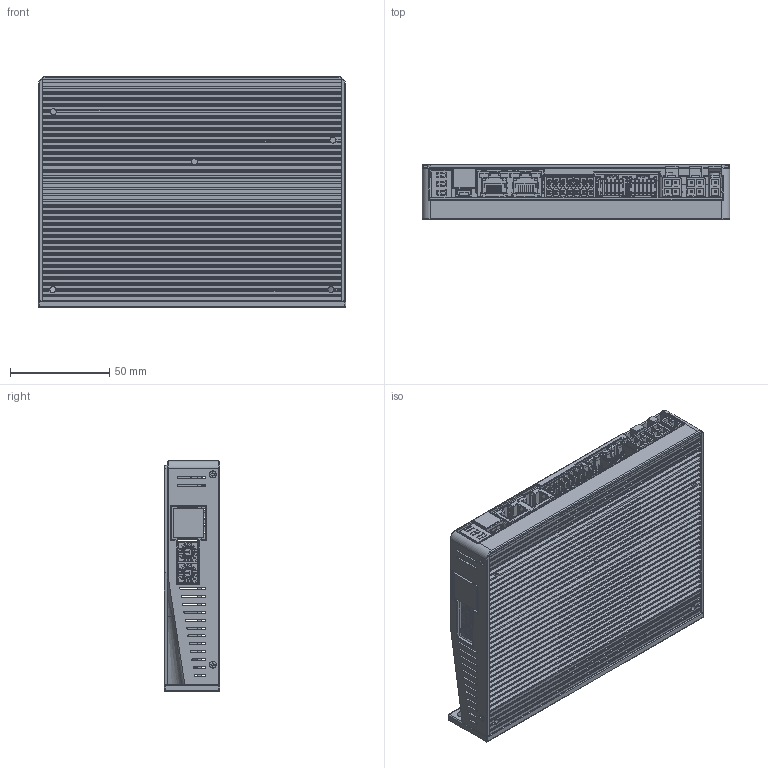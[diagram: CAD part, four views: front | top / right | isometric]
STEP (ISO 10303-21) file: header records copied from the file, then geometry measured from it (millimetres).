
FILE_DESCRIPTION((''),'2;1');
FILE_NAME('222_ASM','2021-08-10T',('sunjun'),(''),'PRO/ENGINEER BY PARAMETRIC TECHNOLOGY CORPORATION, 2008090','PRO/ENGINEER BY PARAMETRIC TECHNOLOGY CORPORATION, 2008090','');
FILE_SCHEMA(('CONFIG_CONTROL_DESIGN'));
Length unit declared in the file: millimetre
Products named in the file (16): PCB_2X_1; YL_2281BHR1_1; 5PIN_MINIUSB_SOCKET_1_1_1_2; C-1932389-1-3-3D__1; PHOENIX______2__7_1; 559591230_1; 039301040_1; 039301020_1; VX0411310000G_8P_3_1; ROTARY_DRR3016-Z_FUJISOKU__1; PCB_CL3_EC507_2X_ASM_2_ASM; DB_CL3_EC507_2X_4; GZ_CL3_EC507_2X_12; SCREWS_2; ASM_CL3_EC507_2X_ASM_12_ASM; 222_ASM
Assembly tree (21 placements, depth 4):
  222_ASM
    ASM_CL3_EC507_2X_ASM_12_ASM
      PCB_CL3_EC507_2X_ASM_2_ASM
        PCB_2X_1
        YL_2281BHR1_1
        5PIN_MINIUSB_SOCKET_1_1_1_2
        C-1932389-1-3-3D__1
        PHOENIX______2__7_1
        559591230_1  x2
        039301040_1  x2
        039301020_1
        VX0411310000G_8P_3_1
        ROTARY_DRR3016-Z_FUJISOKU__1  x2
      DB_CL3_EC507_2X_4
      GZ_CL3_EC507_2X_12
      SCREWS_2  x4
Bounding box: 155 x 28 x 116.5 mm (x, y, z)
Volume: 168502.8 mm3; surface area: 180553.8 mm2
Topology: 19 solids, 19 shells, 6279 faces, 17269 edges, 11319 vertices
Faces by surface type: plane 4876, cylinder 1003, extrusion 216, cone 162, sphere 12, bspline 8, torus 2
Entity records: 174328 total; most frequent: CARTESIAN_POINT 41726, ORIENTED_EDGE 28680, DIRECTION 25207, EDGE_CURVE 14340, VECTOR 11663, LINE 11547, VERTEX_POINT 9444, AXIS2_PLACEMENT_3D 6772
